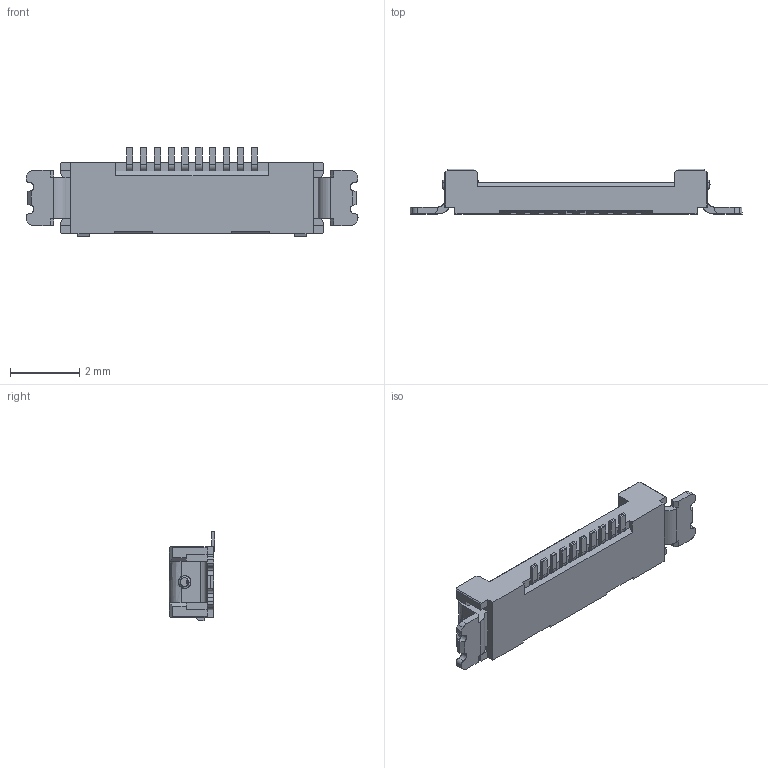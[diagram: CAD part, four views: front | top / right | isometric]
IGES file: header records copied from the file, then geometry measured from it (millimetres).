
Start section: SolidWorks IGES file using analytic representation for surfaces
Global section: file name: C:\Users\3dcad\Desktop\CAB-SS 3D僨乕僞\20374-010E-xxC RECE ASS'Y IGES R1 ALL.IGS,15; native system: HSolidWorks 2011; preprocessor: SolidWorks 2011; author: 3dcad; date: 120217.191446; units: millimetre
Bounding box: 9.6 x 1.33 x 2.6 mm (x, y, z)
Surface area: 75.3 mm2 (no closed solid volume)
Topology: 0 solids, 0 shells, 538 faces, 3282 edges, 3278 vertices
Faces by surface type: bspline 376, revolution 162
